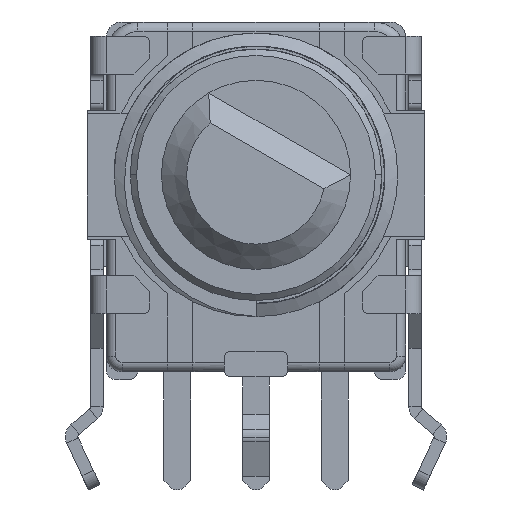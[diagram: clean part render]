
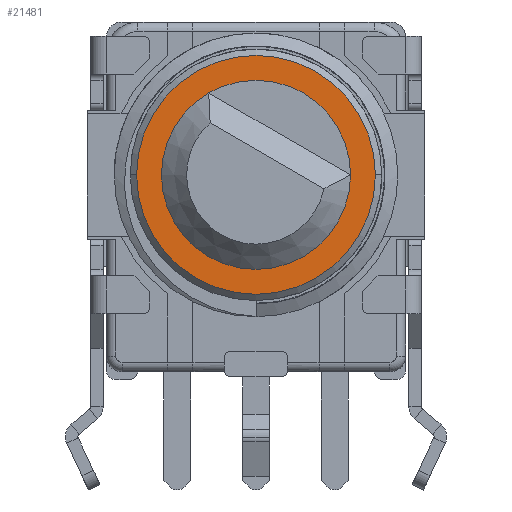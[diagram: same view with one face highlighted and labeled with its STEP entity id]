
A CAD part, front view. The second image highlights one B-rep face of the part: STEP entity #21481.
In plain terms, the highlighted planar face has unit normal (0, -1, 0) as drawn and (0, 0, -1) by its records, which use the part's own axes.
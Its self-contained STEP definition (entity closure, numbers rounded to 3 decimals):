
#102 = VERTEX_POINT ( 'NONE', #9800 ) ;
#165 = VERTEX_POINT ( 'NONE', #9863 ) ;
#246 = VERTEX_POINT ( 'NONE', #9944 ) ;
#260 = VERTEX_POINT ( 'NONE', #9958 ) ;
#5702 = AXIS2_PLACEMENT_3D ( 'NONE', #14966, #14972, #14973 ) ;
#5708 = AXIS2_PLACEMENT_3D ( 'NONE', #15003, #15004, #15005 ) ;
#5761 = AXIS2_PLACEMENT_3D ( 'NONE', #15600, #15602, #15603 ) ;
#5801 = AXIS2_PLACEMENT_3D ( 'NONE', #15995, #16002, #16003 ) ;
#5902 = AXIS2_PLACEMENT_3D ( 'NONE', #17061, #17074, #17075 ) ;
#9800 = CARTESIAN_POINT ( 'NONE',  ( -1.5, 2.598, -9.5 ) ) ;
#9863 = CARTESIAN_POINT ( 'NONE',  ( 1.5, -2.598, -9.5 ) ) ;
#9944 = CARTESIAN_POINT ( 'NONE',  ( 3.79, 0., -9.5 ) ) ;
#9958 = CARTESIAN_POINT ( 'NONE',  ( -3.79, 0., -9.5 ) ) ;
#11189 = EDGE_CURVE ( 'NONE', #246, #260, #13008, .T. ) ;
#11196 = EDGE_CURVE ( 'NONE', #102, #165, #13029, .T. ) ;
#11421 = EDGE_CURVE ( 'NONE', #260, #246, #13650, .T. ) ;
#11596 = EDGE_CURVE ( 'NONE', #165, #102, #16402, .T. ) ;
#12870 = ORIENTED_EDGE ( 'NONE', *, *, #11421, .F. ) ;
#12872 = ORIENTED_EDGE ( 'NONE', *, *, #11196, .T. ) ;
#12878 = ORIENTED_EDGE ( 'NONE', *, *, #11596, .T. ) ;
#12888 = ORIENTED_EDGE ( 'NONE', *, *, #11189, .F. ) ;
#13008 = CIRCLE ( 'NONE', #5702, 3.79 ) ;
#13029 = CIRCLE ( 'NONE', #5708, 3. ) ;
#13650 = CIRCLE ( 'NONE', #5761, 3.79 ) ;
#14966 = CARTESIAN_POINT ( 'NONE',  ( 0., 0., -9.5 ) ) ;
#14972 = DIRECTION ( 'NONE',  ( 0., 0., 1. ) ) ;
#14973 = DIRECTION ( 'NONE',  ( 1., 0., 0. ) ) ;
#15003 = CARTESIAN_POINT ( 'NONE',  ( 0., 0., -9.5 ) ) ;
#15004 = DIRECTION ( 'NONE',  ( 0., 0., 1. ) ) ;
#15005 = DIRECTION ( 'NONE',  ( -1., 0., 0. ) ) ;
#15600 = CARTESIAN_POINT ( 'NONE',  ( 0., 0., -9.5 ) ) ;
#15602 = DIRECTION ( 'NONE',  ( 0., 0., 1. ) ) ;
#15603 = DIRECTION ( 'NONE',  ( 1., 0., 0. ) ) ;
#15995 = CARTESIAN_POINT ( 'NONE',  ( 0., 0., -9.5 ) ) ;
#16002 = DIRECTION ( 'NONE',  ( 0., 0., 1. ) ) ;
#16003 = DIRECTION ( 'NONE',  ( -1., 0., 0. ) ) ;
#16402 = CIRCLE ( 'NONE', #5801, 3. ) ;
#16621 = FACE_BOUND ( 'NONE', #22735, .T. ) ;
#16635 = FACE_OUTER_BOUND ( 'NONE', #22375, .T. ) ;
#17061 = CARTESIAN_POINT ( 'NONE',  ( 0., 0., -9.5 ) ) ;
#17065 = PLANE ( 'NONE',  #5902 ) ;
#17074 = DIRECTION ( 'NONE',  ( 0., 0., -1. ) ) ;
#17075 = DIRECTION ( 'NONE',  ( -1., 0., 0. ) ) ;
#21481 = ADVANCED_FACE ( 'NONE', ( #16635, #16621 ), #17065, .T. ) ;
#22375 = EDGE_LOOP ( 'NONE', ( #12888, #12870 ) ) ;
#22735 = EDGE_LOOP ( 'NONE', ( #12872, #12878 ) ) ;
